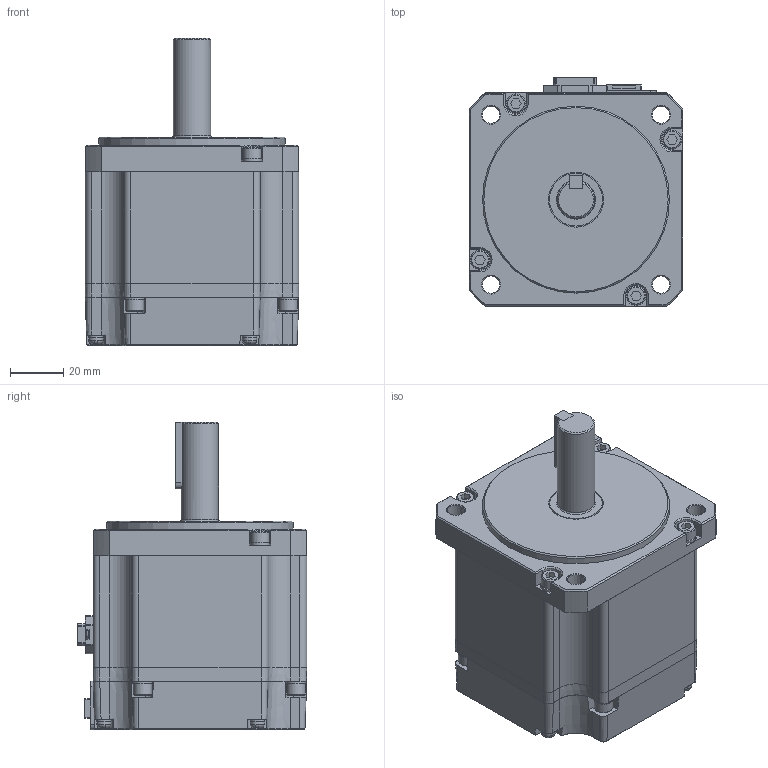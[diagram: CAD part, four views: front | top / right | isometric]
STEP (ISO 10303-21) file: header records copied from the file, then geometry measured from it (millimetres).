
FILE_DESCRIPTION (( 'STEP AP214' ), '1' );
FILE_NAME ('EM08GA001G01_Out Line(APM-EC04AM3K).STEP', '2022-11-04T03:10:37', ( '' ), ( '' ), 'SwSTEP 2.0', 'SolidWorks 2021', '' );
FILE_SCHEMA (( 'AUTOMOTIVE_DESIGN' ));
Length unit declared in the file: millimetre
Products named in the file (1): EM08GA001G01_Out Line(APM-EC04AM3K)
Bounding box: 80 x 85.9 x 115.2 mm (x, y, z)
Volume: 441891.7 mm3; surface area: 83969.3 mm2
Topology: 34 solids, 34 shells, 1438 faces, 3568 edges, 2268 vertices
Faces by surface type: plane 1039, cylinder 209, cone 124, torus 31, bspline 21, sphere 14
Full cylindrical faces by diameter (mm): 1.589 x1, 1.6 x9, 2 x2, 2.1 x2, 2.5 x4, 3 x8, 3.3 x8, 4 x12, 4.5 x8, 5.4 x8, 7 x8, 7.2 x8, 14 x1, 19.8 x1, 20.6 x1, 70 x1
Entity records: 58318 total; most frequent: CARTESIAN_POINT 8892, ORIENTED_EDGE 6772, DIRECTION 6549, EDGE_CURVE 3386, LINE 2515, VECTOR 2515, VERTEX_POINT 2229, AXIS2_PLACEMENT_3D 2017
